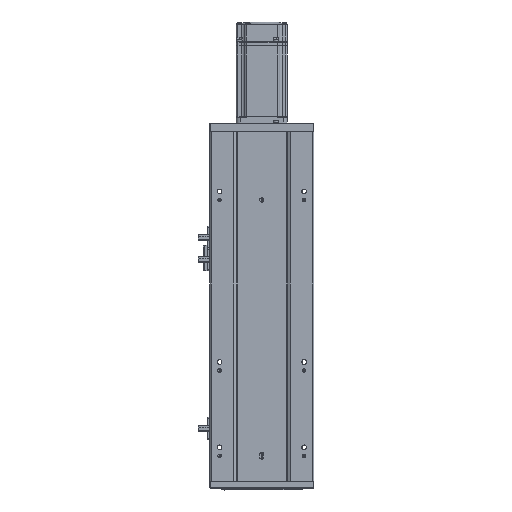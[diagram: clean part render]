
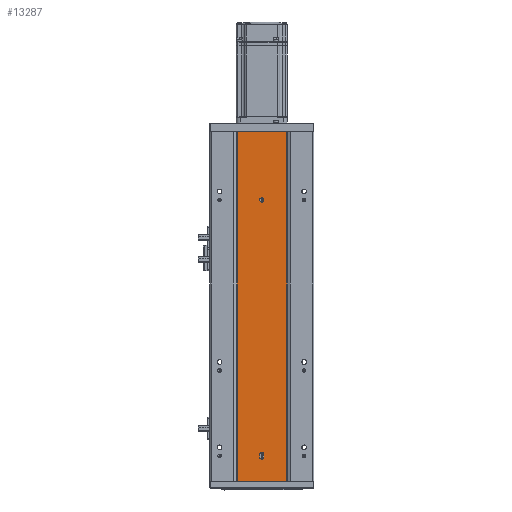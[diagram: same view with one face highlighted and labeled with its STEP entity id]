
A CAD part, front view. The second image highlights one B-rep face of the part: STEP entity #13287.
In plain terms, the highlighted planar face has unit normal (0, -1, 0).
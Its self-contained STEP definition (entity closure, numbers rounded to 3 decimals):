
#627 = LINE ( 'NONE', #20522, #14945 ) ;
#1920 = VECTOR ( 'NONE', #41688, 1000. ) ;
#2468 = PLANE ( 'NONE',  #57343 ) ;
#2990 = DIRECTION ( 'NONE',  ( 0., -1., 0. ) ) ;
#3631 = ORIENTED_EDGE ( 'NONE', *, *, #54288, .T. ) ;
#3666 = EDGE_CURVE ( 'NONE', #56884, #65549, #20187, .T. ) ;
#3962 = CARTESIAN_POINT ( 'NONE',  ( 134.998, 50.307, 28.5 ) ) ;
#4029 = CARTESIAN_POINT ( 'NONE',  ( 0., 50.307, 410. ) ) ;
#4190 = DIRECTION ( 'NONE',  ( 0., -1., 0. ) ) ;
#5700 = VERTEX_POINT ( 'NONE', #58600 ) ;
#5748 = AXIS2_PLACEMENT_3D ( 'NONE', #3962, #4190, #18876 ) ;
#5885 = CARTESIAN_POINT ( 'NONE',  ( 163.998, 50.307, 0. ) ) ;
#7765 = CARTESIAN_POINT ( 'NONE',  ( 134.998, 50.307, 327.5 ) ) ;
#9579 = DIRECTION ( 'NONE',  ( 0., 0., -1. ) ) ;
#9999 = LINE ( 'NONE', #14473, #14004 ) ;
#10274 = ORIENTED_EDGE ( 'NONE', *, *, #27062, .F. ) ;
#10569 = VECTOR ( 'NONE', #13228, 1000. ) ;
#10597 = CIRCLE ( 'NONE', #5748, 2.5 ) ;
#10958 = CARTESIAN_POINT ( 'NONE',  ( 0., 50.307, 0. ) ) ;
#13228 = DIRECTION ( 'NONE',  ( 0., 0., -1. ) ) ;
#13287 = ADVANCED_FACE ( 'NONE', ( #13945, #26748, #20346 ), #2468, .F. ) ;
#13945 = FACE_BOUND ( 'NONE', #44414, .T. ) ;
#14004 = VECTOR ( 'NONE', #9579, 1000. ) ;
#14473 = CARTESIAN_POINT ( 'NONE',  ( 163.998, 50.307, 410. ) ) ;
#14945 = VECTOR ( 'NONE', #41194, 1000. ) ;
#15621 = DIRECTION ( 'NONE',  ( 0., 0., -1. ) ) ;
#16788 = CARTESIAN_POINT ( 'NONE',  ( 137.498, 50.307, 31.5 ) ) ;
#18876 = DIRECTION ( 'NONE',  ( 1., 0., 0. ) ) ;
#19164 = DIRECTION ( 'NONE',  ( 1., 0., 0. ) ) ;
#19553 = AXIS2_PLACEMENT_3D ( 'NONE', #55897, #39795, #24915 ) ;
#19834 = CARTESIAN_POINT ( 'NONE',  ( 163.998, 50.307, 410. ) ) ;
#20187 = CIRCLE ( 'NONE', #29931, 2.5 ) ;
#20346 = FACE_OUTER_BOUND ( 'NONE', #62822, .T. ) ;
#20522 = CARTESIAN_POINT ( 'NONE',  ( 132.498, 50.307, 31.5 ) ) ;
#22307 = DIRECTION ( 'NONE',  ( 0., 1., 0. ) ) ;
#24139 = LINE ( 'NONE', #38827, #10569 ) ;
#24303 = EDGE_CURVE ( 'NONE', #26352, #26237, #28000, .T. ) ;
#24915 = DIRECTION ( 'NONE',  ( 0., 0., -1. ) ) ;
#25645 = CARTESIAN_POINT ( 'NONE',  ( 134.998, 50.307, 330. ) ) ;
#26237 = VERTEX_POINT ( 'NONE', #19834 ) ;
#26352 = VERTEX_POINT ( 'NONE', #41380 ) ;
#26748 = FACE_BOUND ( 'NONE', #54171, .T. ) ;
#26755 = VERTEX_POINT ( 'NONE', #40653 ) ;
#27062 = EDGE_CURVE ( 'NONE', #50137, #46858, #28444, .T. ) ;
#27418 = LINE ( 'NONE', #16788, #1920 ) ;
#27775 = EDGE_CURVE ( 'NONE', #26237, #56945, #9999, .T. ) ;
#27934 = ORIENTED_EDGE ( 'NONE', *, *, #60055, .F. ) ;
#28000 = LINE ( 'NONE', #4029, #39868 ) ;
#28444 = CIRCLE ( 'NONE', #57557, 2.5 ) ;
#28449 = ORIENTED_EDGE ( 'NONE', *, *, #52908, .T. ) ;
#28584 = DIRECTION ( 'NONE',  ( 1., 0., 0. ) ) ;
#29931 = AXIS2_PLACEMENT_3D ( 'NONE', #25645, #61137, #15621 ) ;
#30138 = VERTEX_POINT ( 'NONE', #36028 ) ;
#33174 = DIRECTION ( 'NONE',  ( -1., 0., 0. ) ) ;
#34603 = EDGE_CURVE ( 'NONE', #5700, #50137, #27418, .T. ) ;
#34813 = LINE ( 'NONE', #10958, #54755 ) ;
#35093 = EDGE_CURVE ( 'NONE', #26755, #5700, #10597, .T. ) ;
#35099 = ORIENTED_EDGE ( 'NONE', *, *, #34603, .F. ) ;
#36028 = CARTESIAN_POINT ( 'NONE',  ( 105.998, 50.307, 0. ) ) ;
#38040 = ORIENTED_EDGE ( 'NONE', *, *, #27775, .F. ) ;
#38613 = EDGE_CURVE ( 'NONE', #46858, #26755, #627, .T. ) ;
#38827 = CARTESIAN_POINT ( 'NONE',  ( 105.998, 50.307, 410. ) ) ;
#39795 = DIRECTION ( 'NONE',  ( 0., -1., 0. ) ) ;
#39868 = VECTOR ( 'NONE', #19164, 1000. ) ;
#40653 = CARTESIAN_POINT ( 'NONE',  ( 132.498, 50.307, 28.5 ) ) ;
#41194 = DIRECTION ( 'NONE',  ( 0., 0., -1. ) ) ;
#41380 = CARTESIAN_POINT ( 'NONE',  ( 105.998, 50.307, 410. ) ) ;
#41561 = ORIENTED_EDGE ( 'NONE', *, *, #24303, .F. ) ;
#41688 = DIRECTION ( 'NONE',  ( 0., 0., 1. ) ) ;
#43888 = CARTESIAN_POINT ( 'NONE',  ( 137.498, 50.307, 31.5 ) ) ;
#44016 = CIRCLE ( 'NONE', #19553, 2.5 ) ;
#44414 = EDGE_LOOP ( 'NONE', ( #27934, #45027 ) ) ;
#45027 = ORIENTED_EDGE ( 'NONE', *, *, #3666, .F. ) ;
#45048 = CARTESIAN_POINT ( 'NONE',  ( 134.998, 50.307, 332.5 ) ) ;
#45704 = ORIENTED_EDGE ( 'NONE', *, *, #35093, .F. ) ;
#45777 = CARTESIAN_POINT ( 'NONE',  ( 132.498, 50.307, 31.5 ) ) ;
#46858 = VERTEX_POINT ( 'NONE', #45777 ) ;
#47274 = DIRECTION ( 'NONE',  ( 1., 0., 0. ) ) ;
#50137 = VERTEX_POINT ( 'NONE', #43888 ) ;
#51617 = ORIENTED_EDGE ( 'NONE', *, *, #38613, .F. ) ;
#52908 = EDGE_CURVE ( 'NONE', #26352, #30138, #24139, .T. ) ;
#53522 = CARTESIAN_POINT ( 'NONE',  ( 0., 50.307, 410. ) ) ;
#54050 = CARTESIAN_POINT ( 'NONE',  ( 134.998, 50.307, 31.5 ) ) ;
#54171 = EDGE_LOOP ( 'NONE', ( #51617, #10274, #35099, #45704 ) ) ;
#54288 = EDGE_CURVE ( 'NONE', #30138, #56945, #34813, .T. ) ;
#54755 = VECTOR ( 'NONE', #47274, 1000. ) ;
#55897 = CARTESIAN_POINT ( 'NONE',  ( 134.998, 50.307, 330. ) ) ;
#56884 = VERTEX_POINT ( 'NONE', #45048 ) ;
#56945 = VERTEX_POINT ( 'NONE', #5885 ) ;
#57343 = AXIS2_PLACEMENT_3D ( 'NONE', #53522, #22307, #33174 ) ;
#57557 = AXIS2_PLACEMENT_3D ( 'NONE', #54050, #2990, #28584 ) ;
#58600 = CARTESIAN_POINT ( 'NONE',  ( 137.498, 50.307, 28.5 ) ) ;
#60055 = EDGE_CURVE ( 'NONE', #65549, #56884, #44016, .T. ) ;
#61137 = DIRECTION ( 'NONE',  ( 0., -1., 0. ) ) ;
#62822 = EDGE_LOOP ( 'NONE', ( #3631, #38040, #41561, #28449 ) ) ;
#65549 = VERTEX_POINT ( 'NONE', #7765 ) ;
